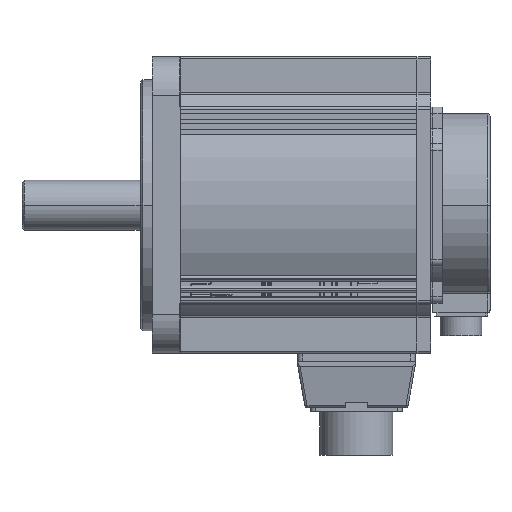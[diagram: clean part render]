
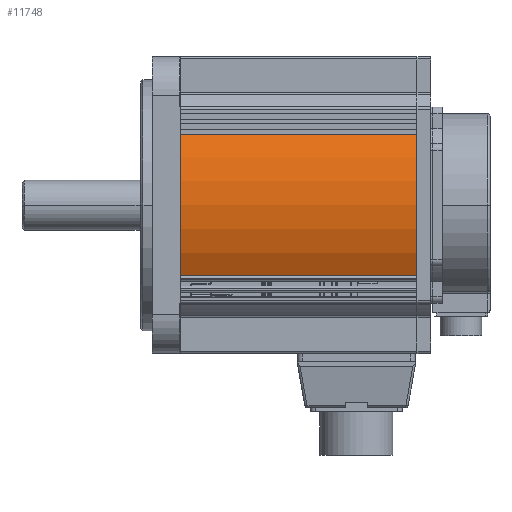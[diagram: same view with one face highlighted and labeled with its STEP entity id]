
A CAD part, top view. The second image highlights one B-rep face of the part: STEP entity #11748.
In plain terms, the highlighted cylindrical face has radius 65 mm (diameter 130 mm), a partial arc.
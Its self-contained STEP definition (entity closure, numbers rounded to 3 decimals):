
#11722 = VERTEX_POINT('',#11723);
#11723 = CARTESIAN_POINT('',(67.7,-31.,57.131));
#11731 = VERTEX_POINT('',#11732);
#11732 = CARTESIAN_POINT('',(171.2,-31.,57.131));
#11738 = EDGE_CURVE('',#11731,#11722,#11739,.T.);
#11739 = LINE('',#11740,#11741);
#11740 = CARTESIAN_POINT('',(171.2,-31.,57.131));
#11741 = VECTOR('',#11742,1.);
#11742 = DIRECTION('',(-1.,0.,0.));
#11748 = ADVANCED_FACE('',(#11749),#11776,.T.);
#11749 = FACE_BOUND('',#11750,.T.);
#11750 = EDGE_LOOP('',(#11751,#11760,#11761,#11770));
#11751 = ORIENTED_EDGE('',*,*,#11752,.T.);
#11752 = EDGE_CURVE('',#11753,#11722,#11755,.T.);
#11753 = VERTEX_POINT('',#11754);
#11754 = CARTESIAN_POINT('',(67.7,31.,57.131));
#11755 = CIRCLE('',#11756,65.);
#11756 = AXIS2_PLACEMENT_3D('',#11757,#11758,#11759);
#11757 = CARTESIAN_POINT('',(67.7,0.,
    0.));
#11758 = DIRECTION('',(1.,0.,0.));
#11759 = DIRECTION('',(0.,1.,0.));
#11760 = ORIENTED_EDGE('',*,*,#11738,.F.);
#11761 = ORIENTED_EDGE('',*,*,#11762,.F.);
#11762 = EDGE_CURVE('',#11763,#11731,#11765,.T.);
#11763 = VERTEX_POINT('',#11764);
#11764 = CARTESIAN_POINT('',(171.2,31.,57.131));
#11765 = CIRCLE('',#11766,65.);
#11766 = AXIS2_PLACEMENT_3D('',#11767,#11768,#11769);
#11767 = CARTESIAN_POINT('',(171.2,0.,
    0.));
#11768 = DIRECTION('',(1.,0.,0.));
#11769 = DIRECTION('',(0.,1.,0.));
#11770 = ORIENTED_EDGE('',*,*,#11771,.T.);
#11771 = EDGE_CURVE('',#11763,#11753,#11772,.T.);
#11772 = LINE('',#11773,#11774);
#11773 = CARTESIAN_POINT('',(171.2,31.,57.131));
#11774 = VECTOR('',#11775,1.);
#11775 = DIRECTION('',(-1.,0.,0.));
#11776 = CYLINDRICAL_SURFACE('',#11777,65.);
#11777 = AXIS2_PLACEMENT_3D('',#11778,#11779,#11780);
#11778 = CARTESIAN_POINT('',(171.2,0.,
    0.));
#11779 = DIRECTION('',(-1.,0.,0.));
#11780 = DIRECTION('',(0.,-1.,0.));
